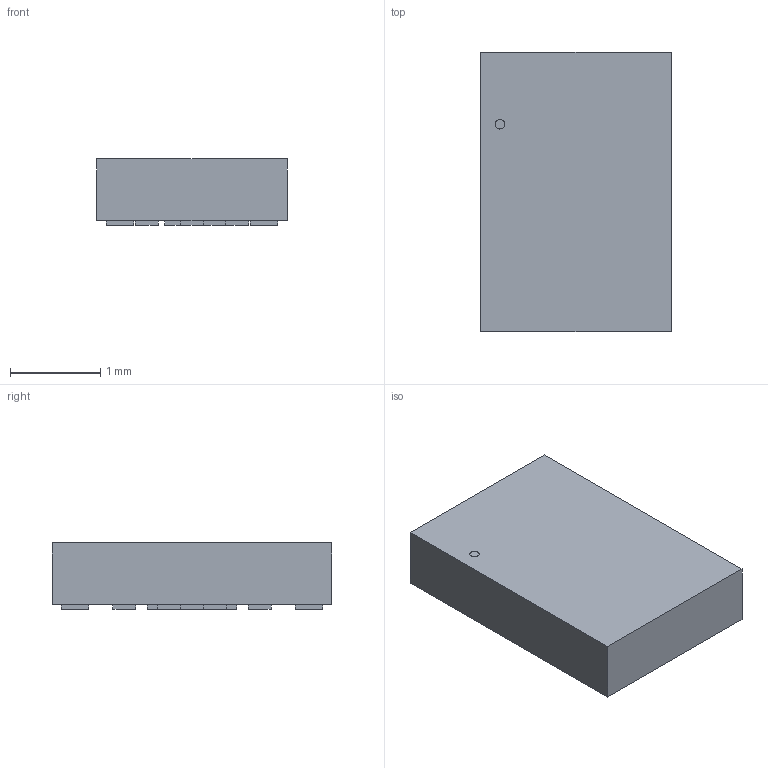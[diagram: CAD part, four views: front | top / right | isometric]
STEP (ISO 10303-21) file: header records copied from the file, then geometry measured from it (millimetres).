
FILE_DESCRIPTION(('STEP AP214'),'1');
FILE_NAME('CC-14-4_ADI','2026-04-27T12:28:51',(''),(''),'','','');
FILE_SCHEMA(('AUTOMOTIVE_DESIGN'));
Length unit declared in the file: millimetre
Products named in the file (1): product
Bounding box: 2.11 x 3.1 x 0.74 mm (x, y, z)
Volume: 4.6 mm3; surface area: 24.4 mm2
Topology: 18 solids, 18 shells, 105 faces, 207 edges, 138 vertices
Faces by surface type: plane 104, cylinder 1
Full cylindrical faces by diameter (mm): 0.105 x1
Entity records: 2677 total; most frequent: DIRECTION 422, ORIENTED_EDGE 412, CARTESIAN_POINT 247, EDGE_CURVE 206, LINE 204, VECTOR 204, VERTEX_POINT 138, AXIS2_PLACEMENT_3D 109
